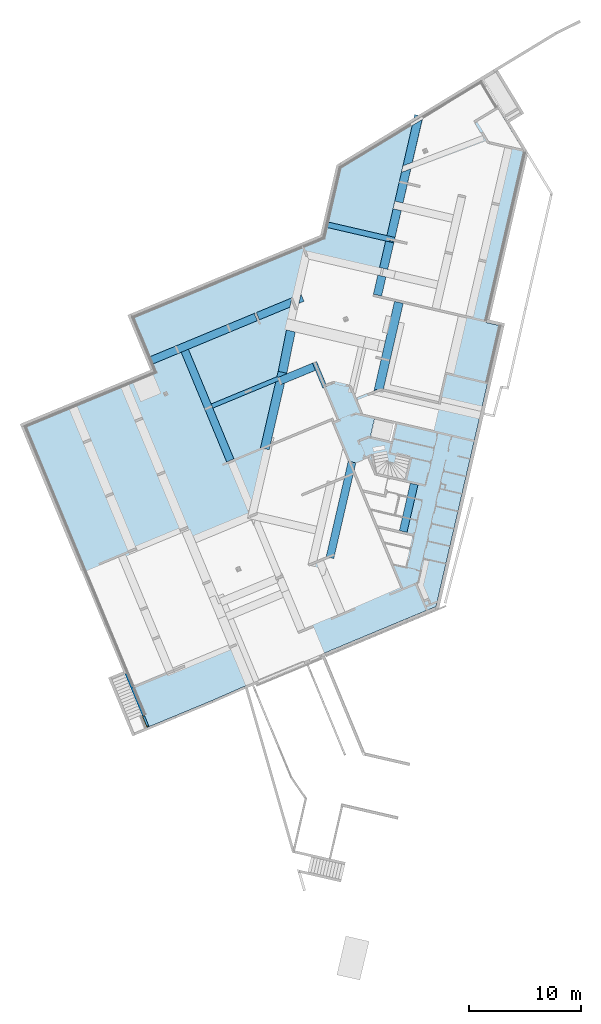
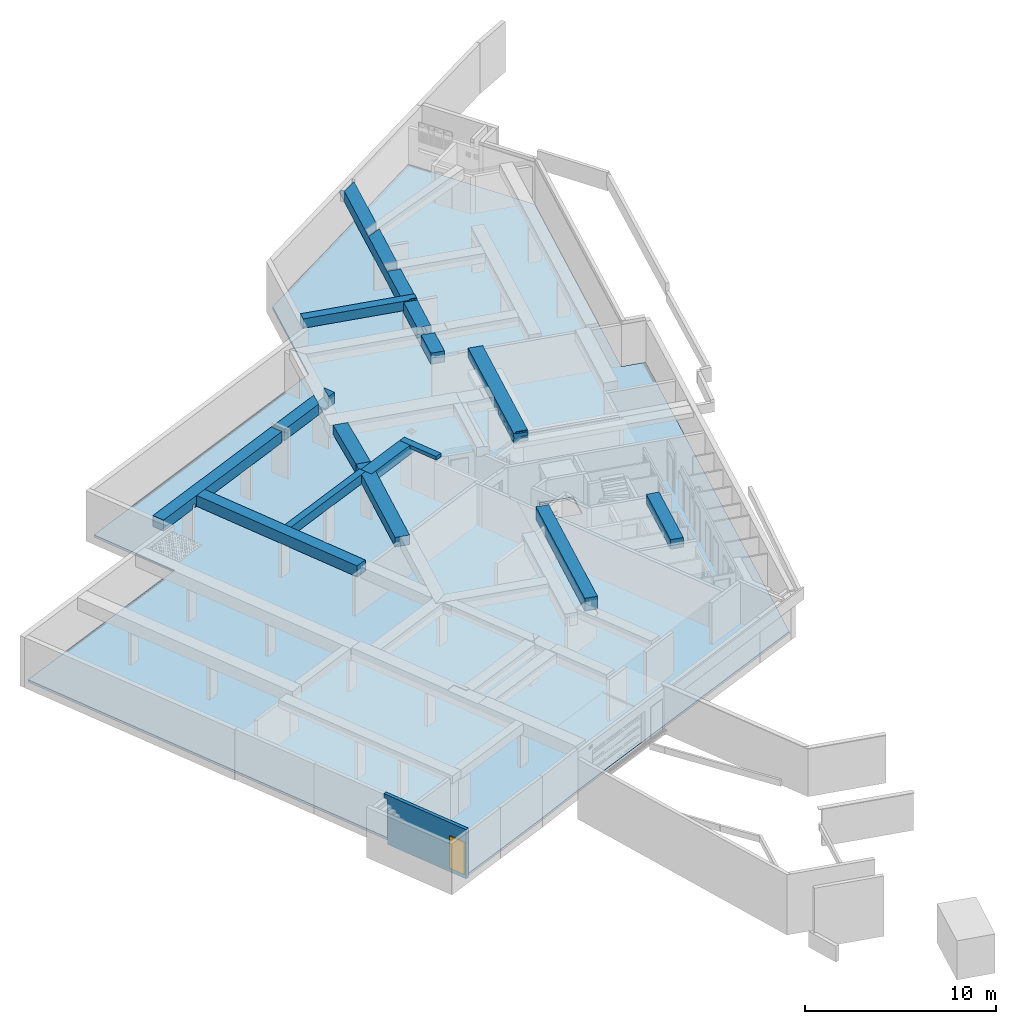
# One storey, part 4 of 20: 12 beams, 1 door, 1 slab, 1 wall, 2 openings.
"""IFC2X3 building model written with IfcOpenShell, lengths in metres."""

from ifc_helpers import new_model, entity, si_unit, converted_unit, derived_unit, money_unit, direction, frame, origin_with_axes, place, context, subcontext, project, spatial, faceted_brep, source, transform, mapped, material, type_object, element, fill, save


model = new_model("IFC2X3")

# Units and contexts
model_context = context("Model", 3, precision=1e-05, world=origin_with_axes(), true_north=direction((0.0, 1.0)))
body_context = subcontext(model_context, "Body", "Model", "MODEL_VIEW")
ifc_project = project(units=[si_unit("LENGTHUNIT", "METRE"), si_unit("AREAUNIT", "SQUARE_METRE"), si_unit("VOLUMEUNIT", "CUBIC_METRE"), converted_unit("PLANEANGLEUNIT", "DEGREE", entity("IfcPlaneAngleMeasure", 0.0174532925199), si_unit("PLANEANGLEUNIT", "RADIAN"), dimensions=[0, 0, 0, 0, 0, 0, 0]), si_unit("SOLIDANGLEUNIT", "STERADIAN"), money_unit("EUR"), converted_unit("TIMEUNIT", "Year", entity("IfcTimeMeasure", 31556926.0), si_unit("TIMEUNIT", "SECOND"), dimensions=[0, 0, 1, 0, 0, 0, 0]), si_unit("MASSUNIT", "GRAM", prefix="KILO"), si_unit("THERMODYNAMICTEMPERATUREUNIT", "DEGREE_CELSIUS"), si_unit("LUMINOUSINTENSITYUNIT", "LUMEN"), si_unit("ENERGYUNIT", "JOULE", prefix="MEGA"), derived_unit("THERMALCONDUCTANCEUNIT", [(si_unit("POWERUNIT", "WATT"), 1), (si_unit("LENGTHUNIT", "METRE"), -1), (si_unit("THERMODYNAMICTEMPERATUREUNIT", "KELVIN"), -1)]), derived_unit("SPECIFICHEATCAPACITYUNIT", [(si_unit("ENERGYUNIT", "JOULE"), 1), (si_unit("MASSUNIT", "GRAM", prefix="KILO"), -1), (si_unit("THERMODYNAMICTEMPERATUREUNIT", "KELVIN"), -1)]), derived_unit("MASSDENSITYUNIT", [(si_unit("MASSUNIT", "GRAM", prefix="KILO"), 1), (si_unit("VOLUMEUNIT", "CUBIC_METRE"), -1)])], contexts=[model_context])

# Site, building, storey
site_placement = place(None, origin_with_axes())
site = spatial("IfcSite", under=ifc_project, at=site_placement, Name="Site", CompositionType="ELEMENT")
building_placement = place(site_placement, origin_with_axes())
building = spatial("IfcBuilding", under=site, at=building_placement, Name="Bâtiment", CompositionType="ELEMENT")
storey_placement = place(building_placement, frame((0.0, 0.0, -2.9), z_axis=(0.0, 0.0, 1.0), x_axis=(1.0, 0.0, 0.0)))
storey = spatial("IfcBuildingStorey", under=building, at=storey_placement, Name="Sous-sol", CompositionType="ELEMENT", Elevation=-2.9)

# Beams
ifc_material_1 = material(Name="Béton")
beam_type_1 = type_object("IfcBeamType", Name="Béton 500 x 600", PredefinedType="BEAM")
beam_1_placement = place(storey_placement, frame((-13.5630911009, 12.9470398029, 2.9), z_axis=(0.0, 0.0, 1.0), x_axis=(-0.224876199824, -0.974387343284, 0.0)))
element("IfcBeam", 1, at=beam_1_placement, inside=storey, type_object=beam_type_1, material=ifc_material_1, Name="PoBA-002", ObjectType="BEAM", context=body_context, shape_type="Brep", body=[
    faceted_brep([(0.25, 0.0, 0.0), (0.25, 5.83017876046, 0.0), (0.132123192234, 5.84010403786, 0.0), (0.132123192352, 6.25000000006, 0.0), (-0.25, 6.25000000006, 0.0), (-0.25, 0.0, 0.0), (0.25, 6.25000000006, -0.045), (0.25, 5.83017876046, -0.045), (0.25, 0.0, -0.6), (0.25, 6.25000000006, -0.6), (0.25, 6.25000000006, -0.35), (0.25, 6.24839338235, -0.35), (0.25, 6.24839338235, -0.23), (0.25, 6.25000000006, -0.23), (0.132123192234, 5.84010403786, -0.045), (0.132123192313, 6.25000000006, -0.045), (0.122123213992, 6.25000000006, -0.23), (0.122123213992, 6.25000000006, -0.35), (-0.25, 6.25000000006, -0.6), (-0.25, 6.25000000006, -0.35), (-0.0771194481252, 6.25000000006, -0.35), (-0.0771194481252, 6.25000000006, -0.23), (-0.25, 6.25000000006, -0.23), (-0.25, 6.24680575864, -0.23), (-0.25, 6.24680575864, -0.35), (-0.25, 0.0, -0.6), (0.122123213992, 6.24839338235, -0.35), (0.122123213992, 6.24839338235, -0.23), (-0.0771171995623, 6.24658075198, -0.35), (-0.0771171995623, 6.24658075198, -0.23)], [[[0, 1, 2, 3, 4, 5]], [[6, 7, 1, 0, 8, 9, 10, 11, 12, 13]], [[14, 2, 1, 7]], [[14, 15, 3, 2]], [[3, 15, 6, 13, 16, 17, 10, 9, 18, 19, 20, 21, 22, 4]], [[23, 24, 19, 18, 25, 5, 4, 22]], [[8, 0, 5, 25]], [[7, 6, 15, 14]], [[9, 8, 25, 18]], [[11, 10, 17, 26]], [[27, 12, 11, 26]], [[27, 16, 13, 12]], [[26, 17, 16, 27]], [[28, 20, 19, 24]], [[29, 21, 20, 28]], [[29, 23, 22, 21]], [[28, 24, 23, 29]]]),
])
beam_type_2 = type_object("IfcBeamType", Name="Béton 700 x 700", PredefinedType="BEAM")
beam_2_placement = place(storey_placement, frame((-26.3298889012, 1.99342077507, 2.9), z_axis=(0.0, 0.0, 1.0), x_axis=(-0.923701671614, -0.383112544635, 0.0)))
element("IfcBeam", 2, at=beam_2_placement, inside=storey, type_object=beam_type_2, material=ifc_material_1, Name="PoBA-002", ObjectType="BEAM", context=body_context, shape_type="Brep", body=[
    faceted_brep([(-0.35, 10.9511261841, 0.0), (-0.35, 10.9511261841, -0.7), (-0.35, 0.350000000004, -0.7), (-0.35, 0.350000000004, 0.0), (0.35, 10.9511261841, 0.0), (0.35, 10.9511261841, -0.7), (0.35, 0.350000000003, -0.7), (0.35, 0.350000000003, 0.0)], [[[0, 1, 2, 3]], [[1, 0, 4, 5]], [[1, 5, 6, 2]], [[2, 6, 7, 3]], [[4, 0, 3, 7]], [[5, 4, 7, 6]]]),
])
beam_3_placement = place(storey_placement, frame((-29.2825992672, 0.768760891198, 2.9), z_axis=(0.0, 0.0, 1.0), x_axis=(0.383112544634, -0.923701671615, 0.0)))
element("IfcBeam", 3, at=beam_3_placement, inside=storey, type_object=beam_type_2, material=ifc_material_1, Name="PoBA-002", ObjectType="BEAM", context=body_context, shape_type="Brep", body=[
    faceted_brep([(0.35, 0.0, -0.7), (0.35000000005, 2.50118517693, -0.7), (0.35000000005, 2.50118517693, -0.45), (0.349999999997, 2.70118517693, -0.45), (0.349999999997, 2.70118517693, -0.7), (0.35, 10.2025679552, -0.7), (0.35, 10.2025679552, 0.0), (0.35, 0.0, 0.0), (-0.35, 0.0, -0.7), (-0.34999999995, 2.50118517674, -0.7), (-0.34999999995, 2.50118517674, -0.45), (-0.350000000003, 2.70118517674, -0.45), (-0.350000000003, 2.70118517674, -0.7), (-0.35, 14.7174204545, -0.7), (0.35, 14.7174204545, -0.7), (0.35, 13.9010319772, -0.7), (-0.348071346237, 13.9010319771, -0.7), (-0.348071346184, 13.7010319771, -0.7), (0.35, 13.7010319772, -0.7), (0.35, 10.4025679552, -0.7), (-0.348071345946, 10.402567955, -0.7), (-0.348071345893, 10.202567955, -0.7), (-0.348071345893, 10.202567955, 0.0), (-0.348071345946, 10.402567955, 0.0), (0.35, 10.4025679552, 0.0), (0.35, 13.3537560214, 0.0), (-0.35, 13.8534707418, 0.0), (-0.35, 0.0, 0.0), (-0.35, 13.8534707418, -0.6), (-0.35, 14.7135374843, -0.6), (-0.35, 14.7135374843, 0.0), (-0.35, 14.7174204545, 0.0), (0.35, 14.7174204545, 0.0), (0.35, 14.213822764, -0.6), (0.35, 13.9010319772, -0.6), (0.35, 14.213822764, 0.0), (-0.348071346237, 13.9010319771, -0.6), (-0.348071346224, 13.8520939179, -0.6), (-0.348071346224, 13.8520939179, -0.45), (-0.348071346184, 13.7010319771, -0.45), (-0.136463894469, 13.7010319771, -0.45), (-0.136463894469, 13.7010319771, -0.6), (0.35, 13.7010319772, -0.6), (0.35, 13.3537560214, -0.6)], [[[0, 1, 2, 3, 4, 5, 6, 7]], [[8, 9, 1, 0]], [[10, 2, 1, 9]], [[11, 3, 2, 10]], [[12, 4, 3, 11]], [[5, 4, 12, 13, 14, 15, 16, 17, 18, 19, 20, 21]], [[21, 22, 6, 5]], [[6, 22, 23, 24, 25, 26, 27, 7]], [[8, 0, 7, 27]], [[11, 10, 9, 8, 27, 26, 28, 29, 30, 31, 13, 12]], [[13, 31, 32, 14]], [[33, 34, 15, 14, 32, 35]], [[16, 15, 34, 36]], [[16, 36, 37, 38, 39, 17]], [[40, 41, 42, 18, 17, 39]], [[19, 18, 42, 43, 25, 24]], [[20, 19, 24, 23]], [[20, 23, 22, 21]], [[40, 38, 37, 28, 26, 25, 43, 41]], [[28, 37, 36, 34, 33, 29]], [[30, 29, 33, 35]], [[35, 32, 31, 30]], [[39, 38, 40]], [[43, 42, 41]]]),
])
beam_type_3 = type_object("IfcBeamType", Name="Béton 800 x 600", PredefinedType="BEAM")
beam_4_placement = place(storey_placement, frame((-19.0462805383, -7.08314665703, 2.9), z_axis=(0.0, 0.0, 1.0), x_axis=(0.974387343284, -0.224876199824, 0.0)))
element("IfcBeam", 4, at=beam_4_placement, inside=storey, type_object=beam_type_3, material=ifc_material_1, Name="PoBA-002", ObjectType="BEAM", context=body_context, shape_type="Brep", body=[
    faceted_brep([(0.4, 7.0139820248, 0.0), (0.4, 6.96610940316, 0.0), (0.4, 6.96610939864, -0.23), (0.4, 7.0139820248, -0.23), (-0.4, 7.00282403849, 0.0), (-0.4, 6.51192961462, 0.0), (-0.347542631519, 6.54937778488, 0.0), (-0.292251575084, 6.47192611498, 0.0), (-0.292251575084, 6.47192611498, -0.6), (0.4, 6.96610940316, -0.6), (0.4, 6.96610939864, -0.35), (0.398681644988, 7.01396363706, -0.23), (0.398681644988, 7.01396363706, -0.35), (0.4, 7.0139820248, -0.35), (0.4, 7.0139820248, -0.6), (-0.4, 7.00282403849, -0.6), (-0.4, 6.51192961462, -0.6), (-0.347542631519, 6.54937778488, -0.6)], [[[0, 1, 2, 3]], [[1, 0, 4, 5, 6, 7]], [[8, 9, 10, 2, 1, 7]], [[3, 2, 11]], [[3, 11, 12, 13, 14, 15, 4, 0]], [[5, 4, 15, 16]], [[5, 16, 17, 6]], [[7, 6, 17, 8]], [[14, 9, 8, 17, 16, 15]], [[9, 14, 13, 10]], [[2, 10, 12, 11]], [[13, 12, 10]]]),
    faceted_brep([(-0.115135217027, 6.22382165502, 0.0), (0.114461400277, 5.90220288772, 0.0), (0.114461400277, 5.90220288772, -0.6), (-0.115135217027, 6.22382165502, -0.6), (0.4, 0.0, 0.0), (0.4, 6.106042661, 0.0), (-0.4, 6.02046290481, 0.0), (-0.4, 0.0, 0.0), (0.4, 6.106042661, -0.6), (0.4, 0.0, -0.6), (-0.4, 0.0, -0.6), (-0.4, 6.02046290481, -0.6)], [[[0, 1, 2, 3]], [[4, 5, 1, 0, 6, 7]], [[1, 5, 8, 2]], [[8, 9, 10, 11, 3, 2]], [[0, 3, 11, 6]], [[8, 5, 4, 9]], [[11, 10, 7, 6]], [[7, 10, 9, 4]]]),
])
beam_5_placement = place(storey_placement, frame((-17.4702574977, -0.254247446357, 2.9), z_axis=(0.0, 0.0, 1.0), x_axis=(0.980280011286, -0.197613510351, 0.0)))
element("IfcBeam", 5, at=beam_5_placement, inside=storey, type_object=beam_type_3, material=ifc_material_1, Name="PoBA-002", ObjectType="BEAM", context=body_context, shape_type="Brep", body=[
    faceted_brep([(0.4, -0.00557899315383, 0.0), (0.4, -0.00557899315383, -0.23), (0.4, 3.75327355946, -0.23), (0.4, 3.75327355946, 0.0), (0.398681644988, -0.00556060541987, -0.35), (0.398681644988, -0.00556060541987, -0.23), (-0.4, 0.00557899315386, 0.0), (-0.4, 0.00557899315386, -0.6), (0.4, -0.00557899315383, -0.6), (0.4, -0.00557899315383, -0.35), (0.4, 3.75327355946, -0.35), (0.4, 3.75327355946, -0.6), (-0.4, 3.7755938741, -0.6), (-0.4, 3.7755938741, 0.0)], [[[0, 1, 2, 3]], [[4, 5, 1, 0, 6, 7, 8, 9]], [[5, 2, 1]], [[3, 2, 10, 11, 12, 13]], [[6, 0, 3, 13]], [[2, 5, 4, 10]], [[7, 6, 13, 12]], [[8, 7, 12, 11]], [[11, 10, 9, 8]], [[4, 9, 10]]]),
])
beam_6_placement = place(storey_placement, frame((-7.08083289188, 5.98867087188, 2.9), z_axis=(0.0, 0.0, 1.0), x_axis=(-0.974387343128, 0.224876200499, 0.0)))
element("IfcBeam", 6, at=beam_6_placement, inside=storey, type_object=beam_type_3, material=ifc_material_1, Name="PoBA-002", ObjectType="BEAM", context=body_context, shape_type="Brep", body=[
    faceted_brep([(0.4, 8.15579682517, -0.6), (0.4, 5.33800001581, -0.6), (-0.352202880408, 5.33800001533, -0.6), (-0.352202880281, 5.13800001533, -0.6), (0.4, 5.13800001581, -0.6), (0.4, 0.0, -0.6), (-0.4, 0.0, -0.6), (-0.4, 8.15579682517, -0.6), (0.4, 8.15579682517, -0.35), (0.4, 5.33800001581, -0.35), (-0.352202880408, 5.33800001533, -0.35), (0.397789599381, 5.33800001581, -0.35), (-0.352202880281, 5.13800001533, -0.35), (0.4, 5.13800001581, -0.35), (0.398438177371, 5.13800001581, -0.35), (0.4, 4.65638557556, -0.35), (0.4, 4.65638557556, -0.23), (0.4, 8.15579682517, -0.23), (0.4, 8.15579682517, 0.0), (0.4, 0.0, 0.0), (-0.4, 0.0, 0.0), (-0.4, 8.0407186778, 0.0), (-0.4, 8.04071867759, -0.045), (-0.4, 8.15579682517, -0.045), (-0.4, 8.15579682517, -0.28), (-0.4, 8.03800001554, -0.28), (-0.4, 8.03800001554, -0.4), (-0.4, 8.15579682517, -0.4), (0.276001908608, 8.15579682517, -0.045), (0.276001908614, 8.15579682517, 0.0), (0.388651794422, 8.15579682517, -0.23), (0.388651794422, 8.15579682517, -0.35), (0.0, 8.15579682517, -0.4), (0.0, 8.15579682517, -0.28), (0.276001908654, 8.04071867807, 0.0), (0.276001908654, 8.04071867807, -0.045), (-0.188935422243, 8.03800001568, -0.28), (-0.188935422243, 8.03800001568, -0.4)], [[[0, 1, 2, 3, 4, 5, 6, 7]], [[8, 9, 1, 0]], [[10, 2, 1, 9, 11]], [[12, 3, 2, 10]], [[13, 4, 3, 12, 14]], [[5, 4, 13, 15, 16, 17, 18, 19]], [[5, 19, 20, 6]], [[20, 21, 22, 23, 24, 25, 26, 27, 7, 6]], [[24, 23, 28, 29, 18, 17, 30, 31, 8, 0, 7, 27, 32, 33]], [[31, 11, 9, 8]], [[10, 11, 14, 12]], [[15, 13, 14]], [[15, 14, 11, 31, 30, 16]], [[16, 30, 17]], [[19, 18, 29, 34, 21, 20]], [[34, 35, 22, 21]], [[35, 28, 23, 22]], [[33, 36, 25, 24]], [[36, 37, 26, 25]], [[37, 32, 27, 26]], [[28, 35, 34, 29]], [[33, 32, 37, 36]]]),
])
beam_type_4 = type_object("IfcBeamType", Name="Béton 700 x 600", PredefinedType="BEAM")
beam_7_placement = place(storey_placement, frame((-5.71902278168, -10.2337867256, 2.9), z_axis=(0.0, 0.0, 1.0), x_axis=(-0.974387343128, 0.224876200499, 0.0)))
element("IfcBeam", 7, at=beam_7_placement, inside=storey, type_object=beam_type_4, material=ifc_material_1, Name="PoBA-002", ObjectType="BEAM", context=body_context, shape_type="Brep", body=[
    faceted_brep([(0.35, 0.0, -0.6), (-0.35, 0.0, -0.6), (-0.35, 4.34730363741, -0.6), (0.35, 4.34730363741, -0.6), (0.35, 0.0, 0.0), (-0.35, 0.0, 0.0), (-0.35, 4.34730363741, 0.0), (0.35, 4.34730363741, 0.0)], [[[0, 1, 2, 3]], [[4, 5, 1, 0]], [[1, 5, 6, 2]], [[7, 3, 2, 6]], [[4, 0, 3, 7]], [[5, 4, 7, 6]]]),
])
beam_8_placement = place(storey_placement, frame((-17.7415752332, -1.03455892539, 2.9), z_axis=(0.0, 0.0, 1.0), x_axis=(0.383112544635, -0.923701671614, 0.0)))
element("IfcBeam", 8, at=beam_8_placement, inside=storey, type_object=beam_type_4, material=ifc_material_1, Name="PoBA-002", ObjectType="BEAM", context=body_context, shape_type="Brep", body=[
    faceted_brep([(0.35, 3.73144322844, -0.6), (0.35, 3.73144322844, -0.35), (0.35, 3.73059414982, -0.35), (0.35, 3.73059414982, -0.23), (0.35, 3.73144322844, -0.23), (0.35, 3.73144322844, 0.0), (0.35, 3.72875167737, 0.0), (0.35, 3.72875167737, -0.23), (0.35, 3.32875167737, -0.23), (0.35, 3.32875167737, 0.0), (0.35, 0.0, 0.0), (0.35, 0.0, -0.6), (-0.35, 3.73144322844, -0.6), (-0.35, 3.73144322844, -0.35), (-0.35, 3.73144322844, -0.23), (-0.35, 3.73144322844, 0.0), (-0.35, 3.72875167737, 0.0), (-0.35, 3.72875167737, -0.23), (-0.35, 3.32875167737, -0.23), (-0.35, 3.32875167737, 0.0), (-0.35, 0.0, 0.0), (-0.35, 0.0, -0.6)], [[[0, 1, 2, 3, 4, 5, 6, 7, 8, 9, 10, 11]], [[0, 12, 13, 1]], [[1, 13, 2]], [[13, 14, 3, 2]], [[4, 3, 14]], [[15, 5, 4, 14]], [[6, 5, 15, 16]], [[6, 16, 17, 7]], [[7, 17, 18, 8]], [[9, 8, 18, 19]], [[19, 20, 10, 9]], [[21, 11, 10, 20]], [[12, 0, 11, 21]], [[16, 15, 14, 13, 12, 21, 20, 19, 18, 17]]]),
])
beam_type_5 = type_object("IfcBeamType", Name="Béton 750 x 700", PredefinedType="BEAM")
beam_9_placement = place(storey_placement, frame((-5.41268939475, 22.1838595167, 2.84), z_axis=(0.0, 0.0, 1.0), x_axis=(-0.974535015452, 0.224235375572, 0.0)))
element("IfcBeam", 9, at=beam_9_placement, inside=storey, type_object=beam_type_5, material=ifc_material_1, Name="PoBA-002", ObjectType="BEAM", context=body_context, shape_type="Brep", body=[
    faceted_brep([(-0.374999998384, 7.42903946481, 0.0), (-0.37499999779, 4.29576661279, 0.0), (0.367659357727, 4.79293624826, 0.0), (0.367263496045, 4.19097433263, 0.0), (-0.374999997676, 3.69406970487, 0.0), (-0.374999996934, -0.225692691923, 0.0), (0.375, 0.504899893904, 0.0), (0.375, 10.5828272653, 0.0), (-0.374999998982, 10.5833204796, 0.0), (-0.374999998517, 8.12903961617, 0.0), (0.369852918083, 8.12854978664, 0.0), (0.369392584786, 7.428549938, 0.0), (-0.374999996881, 3.69406970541, -0.64), (-0.374999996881, 4.29576661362, -0.64), (-0.374999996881, 7.42903946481, -0.54), (-0.374999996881, 8.12903961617, -0.54), (-0.374999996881, 10.5833204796, -0.54), (-0.374999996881, 11.0833205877, -0.54), (-0.374999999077, 11.0833205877, 0.0), (-0.374999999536, 13.5095127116, 0.0), (-0.374999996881, 13.5095127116, -0.54), (-0.374999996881, 14.209512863, -0.54), (-0.374999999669, 14.209512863, 0.0), (-0.375, 15.9555160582, 0.0), (-0.375, 15.9555160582, -0.7), (-0.375, -0.504899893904, -0.7), (-0.374999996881, -0.504899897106, -0.64), (-0.374999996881, -0.504899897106, 0.0), (-0.374999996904, -0.381767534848, 0.0), (-0.374999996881, -0.381767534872, -0.64), (-0.374999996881, -0.225692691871, -0.64), (0.367659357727, 4.79293624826, -0.64), (0.367263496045, 4.19097433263, -0.64), (0.375, 0.504899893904, -0.64), (0.375, 15.9555160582, 0.0), (0.375, 14.2090196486, 0.0), (0.375, 14.2090196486, -0.64), (0.375, 13.5090194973, -0.64), (0.375, 13.5090194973, 0.0), (0.375, 11.0828273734, 0.0), (0.375, 11.0828273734, -0.54), (0.375, 10.5828272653, -0.54), (0.374999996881, 0.225692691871, -0.64), (0.375, -0.504899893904, -0.64), (0.375, -0.504899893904, -0.7), (0.375, 15.9555160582, -0.7), (0.369852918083, 8.12854978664, -0.54), (0.369392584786, 7.428549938, -0.54), (-0.00160870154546, 13.5092671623, -0.54), (-0.00160870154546, 13.5092671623, -0.64), (-0.00114836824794, 14.209267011, -0.54), (-0.00114836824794, 14.209267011, -0.64), (-0.313454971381, -0.444947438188, 0.0), (-0.313454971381, -0.444947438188, -0.64)], [[[0, 1, 2, 3, 4, 5, 6, 7, 8, 9, 10, 11]], [[4, 12, 13, 1, 0, 14, 15, 9, 8, 16, 17, 18, 19, 20, 21, 22, 23, 24, 25, 26, 27, 28, 29, 30, 5]], [[13, 31, 2, 1]], [[31, 32, 3, 2]], [[3, 32, 12, 4]], [[5, 30, 33, 6]], [[34, 35, 36, 37, 38, 39, 40, 41, 7, 6, 33, 42, 43, 44, 45]], [[41, 16, 8, 7]], [[15, 46, 10, 9]], [[46, 47, 11, 10]], [[11, 47, 14, 0]], [[32, 31, 13, 12]], [[47, 46, 15, 14]], [[40, 17, 16, 41]], [[40, 39, 18, 17]], [[19, 18, 39, 38]], [[48, 20, 19, 38, 37, 49]], [[50, 21, 20, 48]], [[35, 22, 21, 50, 51, 36]], [[34, 23, 22, 35]], [[45, 24, 23, 34]], [[25, 24, 45, 44]], [[43, 26, 25, 44]], [[52, 27, 26, 53]], [[27, 52, 28]], [[28, 52, 53, 29]], [[42, 33, 30, 29, 53]], [[36, 51, 49, 37]], [[53, 26, 43, 42]], [[48, 49, 51, 50]]]),
])
beam_type_6 = type_object("IfcBeamType", Name="Béton 400 x 600", PredefinedType="BEAM")
beam_10_placement = place(storey_placement, frame((-24.0917154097, -3.40291673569, 2.9), z_axis=(0.0, 0.0, 1.0), x_axis=(0.383112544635, -0.923701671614, 0.0)))
element("IfcBeam", 10, at=beam_10_placement, inside=storey, type_object=beam_type_6, material=ifc_material_1, Name="PoBA-002", ObjectType="BEAM", context=body_context, shape_type="Brep", body=[
    faceted_brep([(0.2, 6.7729826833, 0.0), (-0.2, 6.7729826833, 0.0), (-0.2, 0.35, 0.0), (0.2, 0.35, 0.0), (0.2, 6.7729826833, -0.6), (-0.2, 6.7729826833, -0.6), (-0.2, 0.35, -0.6), (0.2, 0.35, -0.6)], [[[0, 1, 2, 3]], [[4, 5, 1, 0]], [[1, 5, 6, 2]], [[2, 6, 7, 3]], [[4, 0, 3, 7]], [[5, 4, 7, 6]]]),
])
ifc_material_2 = material(Name="Béton armé (Coulé)")
beam_type_7 = type_object("IfcBeamType", Name="Béton armé (Coulé) 400 x 230", PredefinedType="BEAM")
beam_11_placement = place(storey_placement, frame((-14.4820614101, 0.317350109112, 2.9), z_axis=(0.0, 0.0, 1.0), x_axis=(-0.923701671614, -0.383112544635, 0.0)))
element("IfcBeam", 11, at=beam_11_placement, inside=storey, type_object=beam_type_7, material=ifc_material_2, Name="PoBA-002", ObjectType="BEAM", context=body_context, shape_type="Brep", body=[
    faceted_brep([(0.2, 2.06810913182, -0.23), (0.2, -0.350000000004, -0.23), (-0.2, -0.350000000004, -0.23), (-0.2, 2.06810913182, -0.23), (0.2, 2.06810913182, 0.0), (0.2, -0.350000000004, 0.0), (-0.2, -0.350000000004, 0.0), (-0.2, 2.06810913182, 0.0)], [[[0, 1, 2, 3]], [[4, 5, 1, 0]], [[1, 5, 6, 2]], [[3, 2, 6, 7]], [[7, 4, 0, 3]], [[7, 6, 5, 4]]]),
])
beam_type_8 = type_object("IfcBeamType", Name="Béton 700 x 800", PredefinedType="BEAM")
beam_12_placement = place(storey_placement, frame((-11.2642789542, -8.26784315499, 2.8499999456), z_axis=(0.0, 0.0, 1.0), x_axis=(-0.974387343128, 0.224876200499, 0.0)))
element("IfcBeam", 12, at=beam_12_placement, inside=storey, type_object=beam_type_8, material=ifc_material_1, Name="PoBA-002", ObjectType="BEAM", context=body_context, shape_type="Brep", body=[
    faceted_brep([(-0.35, 0.0, -0.299999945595), (-0.35, 0.632156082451, -0.299999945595), (-0.35, 0.632156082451, -0.179999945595), (-0.35, 0.0, -0.179999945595), (-0.35, 0.0, 0.0), (-0.35, 8.761812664, 0.0), (-0.35, 8.761812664, -0.8), (-0.35, 0.0, -0.8), (-0.0403890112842, 0.198453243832, -0.299999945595), (-0.318382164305, 0.0, -0.299999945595), (-0.0403890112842, 0.198453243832, -0.179999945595), (-0.318382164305, 0.0, -0.179999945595), (0.35, 0.0, -0.8), (0.35, 0.0, 0.0), (0.35, 8.761812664, 0.0), (0.35, 8.761812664, -0.8)], [[[0, 1, 2, 3, 4, 5, 6, 7]], [[8, 1, 0, 9]], [[10, 2, 1, 8]], [[10, 11, 3, 2]], [[11, 9, 0, 7, 12, 13, 4, 3]], [[4, 13, 14, 5]], [[14, 15, 6, 5]], [[12, 7, 6, 15]], [[8, 9, 11, 10]], [[13, 12, 15, 14]]]),
])

# Slab, opening
ifc_material_3 = material(Name="Béton DALLAGE")
slab_type = type_object("IfcSlabType", Name="Béton DALLAGE 150", PredefinedType="FLOOR")
slab_placement = place(storey_placement, frame((-28.8756217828, -0.212480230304, 0.0), z_axis=(0.0, 0.0, 1.0), x_axis=(1.0, 0.0, 0.0)))
slab = element("IfcSlab", 13, at=slab_placement, inside=storey, type_object=slab_type, material=ifc_material_3, Name="Dalle_002", PredefinedType="FLOOR", context=body_context, shape_type="Brep", body=[
    faceted_brep([(0.0, 0.0, 0.0), (0.0, 0.0, -0.15), (-11.6416589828, -4.82846976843, -0.15), (-11.6416589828, -4.82846976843, 0.0), (-2.03539146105, 4.90740291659, 0.0), (-2.03539146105, 4.90740291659, -0.15), (15.0427905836, 11.9907376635, -0.15), (16.4936905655, 18.2774793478, -0.15), (29.1466365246, 25.9678987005, -0.15), (33.0724118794, 19.5088720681, -0.15), (29.5861687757, 4.40299976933, -0.15), (30.8916348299, 4.10171481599, -0.15), (25.1089236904, -20.9547408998, -0.15), (7.99324469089, -28.0914946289, -0.15), (5.11139584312, -29.3557692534, -0.15), (-0.502963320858, -31.6843687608, -0.15), (19.6104615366, -4.21515357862, -0.15), (19.250659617, -5.77417332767, -0.15), (21.1019955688, -6.2014381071, -0.15), (21.4617974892, -4.64241835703, -0.15), (-0.502963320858, -31.6843687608, 0.0), (5.11139584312, -29.3557692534, 0.0), (7.99324469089, -28.0914946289, 0.0), (25.1089236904, -20.9547408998, 0.0), (30.8916348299, 4.10171481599, 0.0), (29.5861687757, 4.40299976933, 0.0), (33.0724118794, 19.5088720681, 0.0), (29.1466365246, 25.9678987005, 0.0), (16.4936905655, 18.2774793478, 0.0), (15.0427905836, 11.9907376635, 0.0), (21.1019955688, -6.2014381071, 0.0), (19.250659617, -5.77417332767, 0.0), (19.6104615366, -4.21515357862, 0.0), (21.4617974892, -4.64241835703, 0.0)], [[[0, 1, 2, 3]], [[4, 5, 1, 0]], [[2, 1, 5, 6, 7, 8, 9, 10, 11, 12, 13, 14, 15], [16, 17, 18, 19]], [[3, 2, 15, 20]], [[4, 0, 3, 20, 21, 22, 23, 24, 25, 26, 27, 28, 29], [30, 31, 32, 33]], [[29, 6, 5, 4]], [[28, 7, 6, 29]], [[27, 8, 7, 28]], [[26, 9, 8, 27]], [[25, 10, 9, 26]], [[24, 11, 10, 25]], [[23, 12, 11, 24]], [[22, 13, 12, 23]], [[21, 14, 13, 22]], [[20, 15, 14, 21]], [[31, 17, 16, 32]], [[30, 18, 17, 31]], [[33, 19, 18, 30]], [[32, 16, 19, 33]]]),
])
opening_1_placement = place(slab_placement, origin_with_axes())
element("IfcOpeningElement", 14, at=opening_1_placement, cuts=slab, Name="Ouverture de dalle", context=body_context, shape_type="Brep", body=[
    faceted_brep([(19.250659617, -5.77417332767, -0.15), (19.6104615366, -4.21515357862, -0.15), (21.4617974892, -4.64241835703, -0.15), (21.1019955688, -6.2014381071, -0.15), (19.250659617, -5.77417332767, 0.0), (19.6104615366, -4.21515357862, 0.0), (21.4617974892, -4.64241835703, 0.0), (21.1019955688, -6.2014381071, 0.0)], [[[0, 1, 2, 3]], [[4, 5, 1, 0]], [[5, 6, 2, 1]], [[6, 7, 3, 2]], [[7, 4, 0, 3]], [[4, 7, 6, 5]]]),
])

# Wall, opening, door
wall_type = type_object("IfcWallType", Name="Béton 200", PredefinedType="USERDEFINED")
wall_placement = place(storey_placement, frame((-29.3019625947, -32.0815893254, -0.25), z_axis=(0.0, 0.0, 1.0), x_axis=(-0.383112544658, 0.923701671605, 0.0)))
wall = element("IfcWall", 15, at=wall_placement, inside=storey, type_object=wall_type, material=ifc_material_1, Name="M_Ext-002", ObjectType="SOLIDWALL", context=body_context, shape_type="Brep", body=[
    faceted_brep([(5.38372761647, 0.2, 0.0), (0.199999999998, 0.2, 0.0), (0.199999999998, 0.2, 3.15), (5.63372761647, 0.2, 3.15), (5.63372761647, 0.2, 2.9), (5.38372761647, 0.2, 2.9), (1.29674305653, 0.2, 0.25), (1.29674305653, 0.2, 2.335), (0.276743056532, 0.2, 2.335), (0.276743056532, 0.2, 0.25), (5.38372761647, 0.0, 0.0), (0.2, 0.0, 0.0), (0.2, 0.0, 2.92), (0.2, 0.000186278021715, 2.92), (0.2, 0.000186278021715, 3.15), (5.63372761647, 0.00011890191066, 3.15), (5.63372761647, 0.0, 2.9), (5.63372761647, 0.000118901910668, 2.92), (5.63372761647, 0.0, 2.92), (5.38372761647, 0.0, 2.9), (1.29674305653, 0.0, 0.25), (1.29674305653, 0.0, 2.335), (0.276743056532, 0.0, 2.335), (0.276743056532, 0.0, 0.25)], [[[0, 1, 2, 3, 4, 5], [6, 7, 8, 9]], [[1, 0, 10, 11]], [[2, 1, 11, 12, 13, 14]], [[14, 15, 3, 2]], [[16, 4, 3, 15, 17, 18]], [[4, 16, 19, 5]], [[5, 19, 10, 0]], [[20, 21, 7, 6]], [[21, 22, 8, 7]], [[22, 23, 9, 8]], [[23, 20, 6, 9]], [[11, 10, 19, 16, 18, 12], [20, 23, 22, 21]], [[13, 12, 18, 17]], [[15, 14, 13, 17]]]),
])
opening_2_placement = place(wall_placement, frame((0.786743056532, 0.0, 0.25), z_axis=(0.0, 0.0, 1.0), x_axis=(1.0, 0.0, 0.0)))
opening_2 = element("IfcOpeningElement", 16, at=opening_2_placement, cuts=wall, Name="Porte acier 1V 93x204", context=body_context, shape_type="Brep", body=[
    faceted_brep([(-0.51, 0.2, 0.0), (0.51, 0.2, 0.0), (0.51, -0.2, 0.0), (-0.51, -0.2, 0.0), (-0.51, 0.2, 2.085), (0.51, 0.2, 2.085), (0.51, -0.2, 2.085), (-0.51, -0.2, 2.085)], [[[0, 1, 2, 3]], [[0, 4, 5, 1]], [[1, 5, 6, 2]], [[3, 2, 6, 7]], [[4, 0, 3, 7]], [[5, 4, 7, 6]]]),
])
door_style = type_object("IfcDoorStyle", Name="Porte int générique 2019", ConstructionType="NOTDEFINED", OperationType="SINGLE_SWING_LEFT", ParameterTakesPrecedence=False, Sizeable=False)
shared_shape = source(origin_with_axes(), body_context, "Body", "Brep", [
    faceted_brep([(-0.51, 0.0, 0.0), (-0.51, 0.0, 2.085), (0.51, 0.0, 2.085), (0.51, 0.0, 0.0), (0.48, 0.0, 0.0), (0.48, 0.0, 2.055), (-0.48, 0.0, 2.055), (-0.48, 0.0, 0.0), (-0.51, -0.2, 0.0), (-0.51, -0.2, 2.085), (0.51, -0.2, 2.085), (0.51, -0.2, 0.0), (0.48, -0.2, 0.0), (0.48, -0.045, 0.0), (0.465, -0.045, 0.0), (0.465, -0.015, 0.0), (0.48, -0.015, 0.0), (0.48, -0.015, 2.055), (-0.48, -0.015, 2.055), (-0.48, -0.015, 0.0), (-0.465, -0.015, 0.0), (-0.465, -0.045, 0.0), (-0.48, -0.045, 0.0), (-0.48, -0.2, 0.0), (-0.48, -0.2, 2.055), (0.48, -0.2, 2.055), (0.48, -0.045, 2.055), (-0.465, -0.045, 2.04), (0.465, -0.045, 2.04), (-0.48, -0.045, 2.055), (0.465, -0.015, 2.04), (-0.465, -0.015, 2.04)], [[[0, 1, 2, 3, 4, 5, 6, 7]], [[8, 9, 1, 0]], [[9, 10, 2, 1]], [[10, 11, 3, 2]], [[3, 11, 12, 13, 14, 15, 16, 4]], [[5, 4, 16, 17]], [[6, 5, 17, 18]], [[7, 6, 18, 19]], [[0, 7, 19, 20, 21, 22, 23, 8]], [[23, 24, 25, 12, 11, 10, 9, 8]], [[26, 13, 12, 25]], [[21, 27, 28, 14, 13, 26, 29, 22]], [[30, 15, 14, 28]], [[19, 18, 17, 16, 15, 30, 31, 20]], [[20, 31, 27, 21]], [[22, 29, 24, 23]], [[29, 26, 25, 24]], [[31, 30, 28, 27]]]),
    faceted_brep([(-0.48, 0.025, 0.0), (0.48, 0.025, 0.0), (0.48, -0.015, 0.0), (-0.48, -0.015, 0.0), (-0.48, 0.025, 2.055), (0.48, 0.025, 2.055), (0.48, -0.015, 2.055), (-0.48, -0.015, 2.055)], [[[0, 1, 2, 3]], [[0, 4, 5, 1]], [[1, 5, 6, 2]], [[3, 2, 6, 7]], [[4, 0, 3, 7]], [[5, 4, 7, 6]]]),
])
door_placement = place(opening_2_placement, frame((-0.465, 0.0, 0.0), z_axis=(0.0, 0.0, 1.0), x_axis=(1.0, 0.0, 0.0)))
door = element("IfcDoor", 17, at=door_placement, inside=storey, type_object=door_style, Name="Porte acier 1V 93x204", ObjectType="DOOR", OverallHeight=2.04, OverallWidth=0.93, context=body_context, shape_type="MappedRepresentation", body=[
    mapped(shared_shape, transform((0.465, 0.2, 0.0))),
])
fill(opening_2, door)

save(model, "model.ifc")
